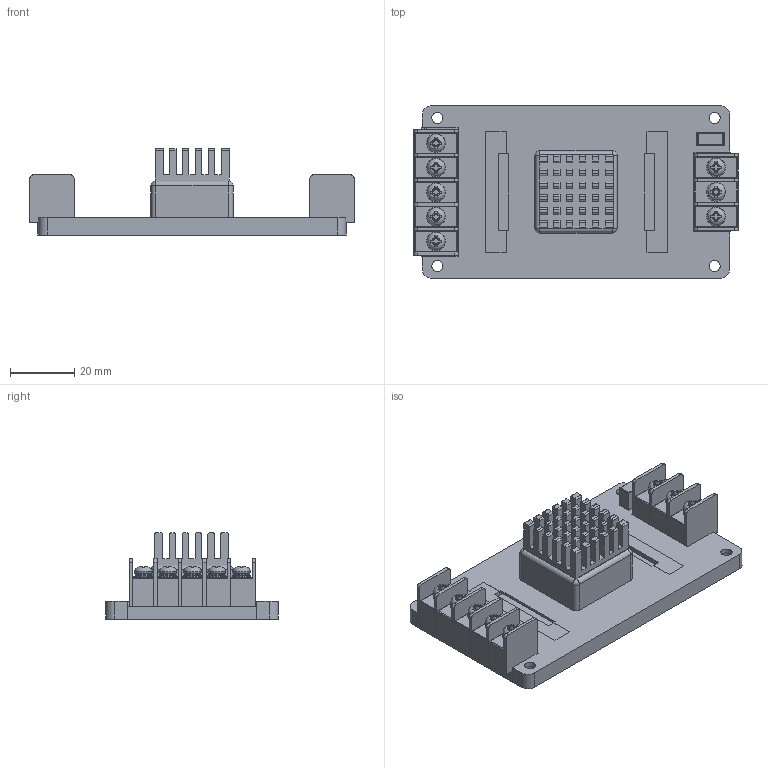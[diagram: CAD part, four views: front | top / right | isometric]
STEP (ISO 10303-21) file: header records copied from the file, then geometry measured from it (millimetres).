
FILE_DESCRIPTION(/* description */ (''),/* implementation_level */ '2;1');
FILE_NAME(/* name */ 'D:\Inventor\3D Files\200430\SW20F-X - A5.stp',/* time_stamp */ '2020-04-24T16:43:18+08:00',/* author */ ('peter'),/* organization */ (''),/* preprocessor_version */ 'ST-DEVELOPER v15.2',/* originating_system */ 'Autodesk Inventor 2014',/* authorisation */ '');
FILE_SCHEMA (('AUTOMOTIVE_DESIGN { 1 0 10303 214 3 1 1 }'));
Length unit declared in the file: millimetre
Products named in the file (15): PCB; TOP CASE - A2; BOT CASE - A2 _ TRACO; INLET 7R62 mm OPEN; INLET 7R62 mm - L; SCREW CH_W  M3_6mm; INLET - IN; INLET - 3PIN; INLET - OUT; HOLDER - AHC AFC; A5 ASSEMBLY; SW20F for A2_5; HEATSINK _ 23x23x10 mm; SW20F-X for A2_5; SW20F-X - A5
Bounding box: 100.65 x 53.51 x 26.8 mm (x, y, z)
Volume: 43122.6 mm3; surface area: 50888.4 mm2
Topology: 46 solids, 46 shells, 1103 faces, 2789 edges, 1839 vertices
Faces by surface type: plane 757, cylinder 234, torus 60, cone 39, bspline 9, sphere 4
Full cylindrical faces by diameter (mm): 1 x6, 1.39 x4, 3 x18, 3.1 x9, 3.476 x4, 3.5 x11, 3.972 x1, 5.5 x4, 5.8 x9
Entity records: 18604 total; most frequent: CARTESIAN_POINT 3300, DIRECTION 3086, ORIENTED_EDGE 3044, EDGE_CURVE 1522, LINE 1186, VECTOR 1186, VERTEX_POINT 1033, AXIS2_PLACEMENT_3D 950
